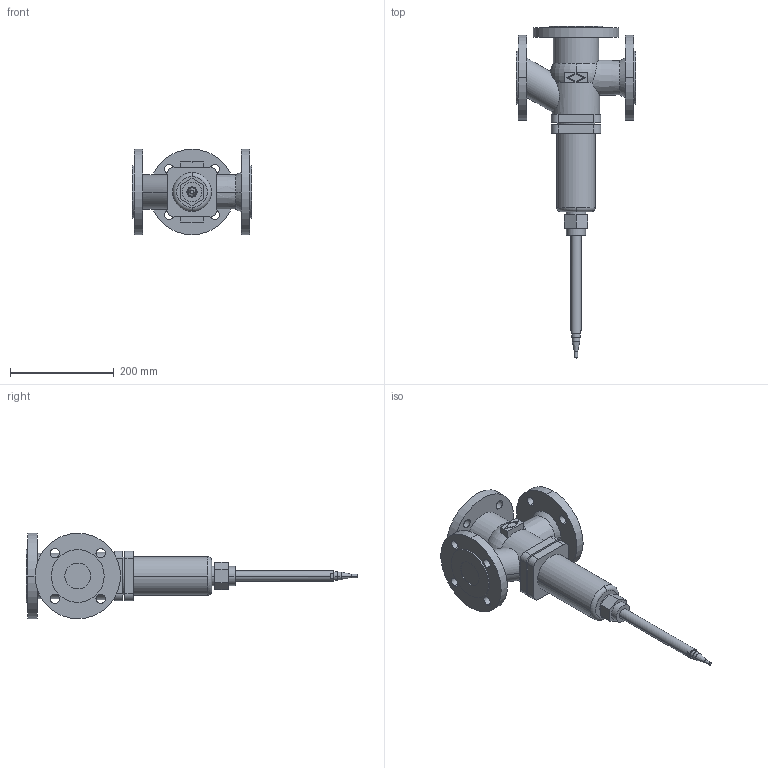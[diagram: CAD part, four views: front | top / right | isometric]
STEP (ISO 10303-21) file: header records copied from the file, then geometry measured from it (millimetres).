
FILE_DESCRIPTION( ( '' ), '1' );
FILE_NAME( 'F:/DE-SHS/TB/OR/04-Sonstiges/daten/files_3d/773-Mischventil/773-Mischventil_PN40/c000006182.stp', '2016-04-11T09:10:46', ( '' ), ( '' ), ' ', ' ', ' ' );
FILE_SCHEMA( ( 'CONFIG_CONTROL_DESIGN' ) );
Length unit declared in the file: millimetre
Products named in the file (1): 1
Bounding box: 230 x 641.44 x 165 mm (x, y, z)
Volume: 3653216 mm3; surface area: 302504.9 mm2
Topology: 1 solids, 1 shells, 141 faces, 351 edges, 232 vertices
Faces by surface type: cylinder 70, plane 60, cone 6, torus 5
Entity records: 4806 total; most frequent: CARTESIAN_POINT 1203, DIRECTION 788, ORIENTED_EDGE 702, EDGE_CURVE 351, AXIS2_PLACEMENT_3D 309, VERTEX_POINT 232, EDGE_LOOP 185, LINE 170
